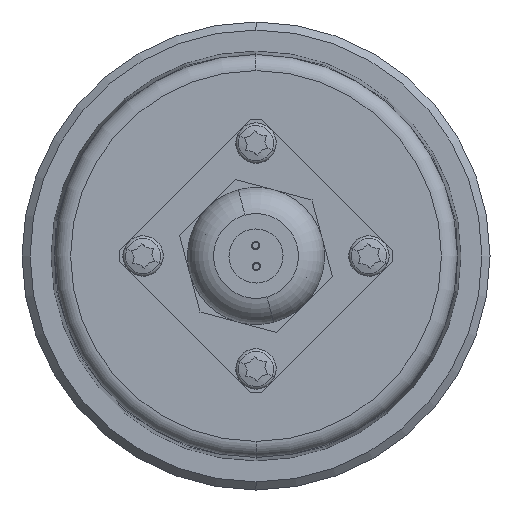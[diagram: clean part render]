
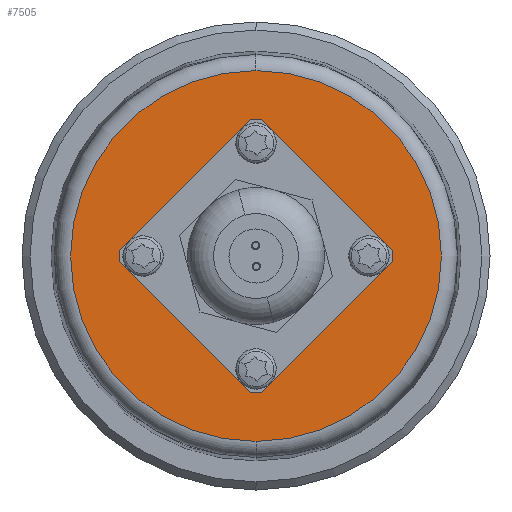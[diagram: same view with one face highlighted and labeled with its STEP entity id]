
A CAD part, left-side view. The second image highlights one B-rep face of the part: STEP entity #7505.
In plain terms, the highlighted planar face has unit normal (-1, 0, 0).
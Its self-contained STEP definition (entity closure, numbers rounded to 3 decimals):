
#55 = DIRECTION ( 'NONE',  ( 0., 0., -1. ) ) ;
#56 = DIRECTION ( 'NONE',  ( 1., 0., 0. ) ) ;
#57 = CARTESIAN_POINT ( 'NONE',  ( -21., 14.001, 0. ) ) ;
#58 = AXIS2_PLACEMENT_3D ( 'NONE', #57, #56, #55 ) ;
#150 = CIRCLE ( 'NONE', #58, 1.389 ) ;
#204 = CIRCLE ( 'NONE', #221, 1.389 ) ;
#218 = DIRECTION ( 'NONE',  ( 0., 0., -1. ) ) ;
#219 = DIRECTION ( 'NONE',  ( 1., 0., 0. ) ) ;
#220 = CARTESIAN_POINT ( 'NONE',  ( -21., -14.001, 0. ) ) ;
#221 = AXIS2_PLACEMENT_3D ( 'NONE', #220, #219, #218 ) ;
#4736 = DIRECTION ( 'NONE',  ( 0., 0., -1. ) ) ;
#4737 = DIRECTION ( 'NONE',  ( 1., 0., 0. ) ) ;
#4738 = CARTESIAN_POINT ( 'NONE',  ( -21., 0., 0. ) ) ;
#4739 = AXIS2_PLACEMENT_3D ( 'NONE', #4738, #4737, #4736 ) ;
#4740 = PLANE ( 'NONE',  #4739 ) ;
#4755 = FACE_BOUND ( 'NONE', #7439, .T. ) ;
#4756 = FACE_OUTER_BOUND ( 'NONE', #7474, .T. ) ;
#4757 = FACE_BOUND ( 'NONE', #7528, .T. ) ;
#4758 = FACE_BOUND ( 'NONE', #7442, .T. ) ;
#4759 = FACE_BOUND ( 'NONE', #7501, .T. ) ;
#4764 = FACE_BOUND ( 'NONE', #7506, .T. ) ;
#4797 = CARTESIAN_POINT ( 'NONE',  ( -21., 0., 14.001 ) ) ;
#4798 = AXIS2_PLACEMENT_3D ( 'NONE', #4797, #4929, #4928 ) ;
#4799 = CIRCLE ( 'NONE', #4798, 1.389 ) ;
#4923 = DIRECTION ( 'NONE',  ( 0., 0., -1. ) ) ;
#4924 = DIRECTION ( 'NONE',  ( -1., 0., 0. ) ) ;
#4925 = CARTESIAN_POINT ( 'NONE',  ( -21., 0., 0. ) ) ;
#4926 = AXIS2_PLACEMENT_3D ( 'NONE', #4925, #4924, #4923 ) ;
#4927 = CIRCLE ( 'NONE', #4926, 22.972 ) ;
#4928 = DIRECTION ( 'NONE',  ( 0., 0., -1. ) ) ;
#4929 = DIRECTION ( 'NONE',  ( 1., 0., 0. ) ) ;
#4930 = DIRECTION ( 'NONE',  ( 0., 0., -1. ) ) ;
#4931 = DIRECTION ( 'NONE',  ( 1., 0., 0. ) ) ;
#4932 = CARTESIAN_POINT ( 'NONE',  ( -21., 0., -14.001 ) ) ;
#4933 = AXIS2_PLACEMENT_3D ( 'NONE', #4932, #4931, #4930 ) ;
#4934 = CIRCLE ( 'NONE', #4933, 1.389 ) ;
#7438 = ORIENTED_EDGE ( 'NONE', *, *, #23241, .T. ) ;
#7439 = EDGE_LOOP ( 'NONE', ( #7440, #7459 ) ) ;
#7440 = ORIENTED_EDGE ( 'NONE', *, *, #7458, .F. ) ;
#7441 = ORIENTED_EDGE ( 'NONE', *, *, #23085, .T. ) ;
#7442 = EDGE_LOOP ( 'NONE', ( #7527, #7540 ) ) ;
#7458 = EDGE_CURVE ( 'NONE', #23461, #23317, #14103, .T. ) ;
#7459 = ORIENTED_EDGE ( 'NONE', *, *, #23460, .F. ) ;
#7461 = ORIENTED_EDGE ( 'NONE', *, *, #7500, .T. ) ;
#7472 = ORIENTED_EDGE ( 'NONE', *, *, #7473, .T. ) ;
#7473 = EDGE_CURVE ( 'NONE', #23105, #23108, #4799, .T. ) ;
#7474 = EDGE_LOOP ( 'NONE', ( #7475, #7438 ) ) ;
#7475 = ORIENTED_EDGE ( 'NONE', *, *, #7476, .T. ) ;
#7476 = EDGE_CURVE ( 'NONE', #23144, #23180, #4927, .T. ) ;
#7500 = EDGE_CURVE ( 'NONE', #23046, #23145, #4934, .T. ) ;
#7501 = EDGE_LOOP ( 'NONE', ( #7441, #7525 ) ) ;
#7505 = ADVANCED_FACE ( 'NONE', ( #4764, #4759, #4758, #4757, #4756, #4755 ), #4740, .F. ) ;
#7506 = EDGE_LOOP ( 'NONE', ( #7507, #7461 ) ) ;
#7507 = ORIENTED_EDGE ( 'NONE', *, *, #23197, .T. ) ;
#7525 = ORIENTED_EDGE ( 'NONE', *, *, #7526, .T. ) ;
#7526 = EDGE_CURVE ( 'NONE', #23022, #23023, #204, .T. ) ;
#7527 = ORIENTED_EDGE ( 'NONE', *, *, #23050, .T. ) ;
#7528 = EDGE_LOOP ( 'NONE', ( #7542, #7472 ) ) ;
#7540 = ORIENTED_EDGE ( 'NONE', *, *, #7541, .T. ) ;
#7541 = EDGE_CURVE ( 'NONE', #23038, #23014, #150, .T. ) ;
#7542 = ORIENTED_EDGE ( 'NONE', *, *, #23107, .T. ) ;
#9419 = CARTESIAN_POINT ( 'NONE',  ( -21., 14.001, 1.389 ) ) ;
#9431 = CARTESIAN_POINT ( 'NONE',  ( -21., -14.001, 1.389 ) ) ;
#9445 = CARTESIAN_POINT ( 'NONE',  ( -21., -14.001, -1.389 ) ) ;
#9526 = CARTESIAN_POINT ( 'NONE',  ( -21., 14.001, 0. ) ) ;
#9527 = CIRCLE ( 'NONE', #9547, 1.389 ) ;
#9545 = DIRECTION ( 'NONE',  ( 0., 0., -1. ) ) ;
#9546 = DIRECTION ( 'NONE',  ( 1., 0., 0. ) ) ;
#9547 = AXIS2_PLACEMENT_3D ( 'NONE', #9526, #9546, #9545 ) ;
#9561 = CARTESIAN_POINT ( 'NONE',  ( -21., 14.001, -1.389 ) ) ;
#9575 = CARTESIAN_POINT ( 'NONE',  ( -21., 0., -15.389 ) ) ;
#9665 = DIRECTION ( 'NONE',  ( 0., 0., -1. ) ) ;
#9691 = DIRECTION ( 'NONE',  ( 1., 0., 0. ) ) ;
#9692 = CARTESIAN_POINT ( 'NONE',  ( -21., -14.001, 0. ) ) ;
#9693 = AXIS2_PLACEMENT_3D ( 'NONE', #9692, #9691, #9665 ) ;
#9694 = CIRCLE ( 'NONE', #9693, 1.389 ) ;
#9745 = DIRECTION ( 'NONE',  ( 0., 0., -1. ) ) ;
#9746 = DIRECTION ( 'NONE',  ( 1., 0., 0. ) ) ;
#9747 = CARTESIAN_POINT ( 'NONE',  ( -21., 0., 14.001 ) ) ;
#9748 = AXIS2_PLACEMENT_3D ( 'NONE', #9747, #9746, #9745 ) ;
#9749 = CIRCLE ( 'NONE', #9748, 1.389 ) ;
#9779 = CARTESIAN_POINT ( 'NONE',  ( -21., 0., 15.389 ) ) ;
#9780 = CARTESIAN_POINT ( 'NONE',  ( -21., 0., 12.612 ) ) ;
#9841 = CARTESIAN_POINT ( 'NONE',  ( -21., 0., -12.612 ) ) ;
#9857 = CARTESIAN_POINT ( 'NONE',  ( -21., 0., -22.972 ) ) ;
#10022 = DIRECTION ( 'NONE',  ( 0., 0., -1. ) ) ;
#10023 = DIRECTION ( 'NONE',  ( 1., 0., 0. ) ) ;
#10024 = CARTESIAN_POINT ( 'NONE',  ( -21., 0., -14.001 ) ) ;
#10025 = AXIS2_PLACEMENT_3D ( 'NONE', #10024, #10023, #10022 ) ;
#10026 = CIRCLE ( 'NONE', #10025, 1.389 ) ;
#10055 = CARTESIAN_POINT ( 'NONE',  ( -21., 0., 22.972 ) ) ;
#10257 = DIRECTION ( 'NONE',  ( -1., 0., 0. ) ) ;
#10258 = CARTESIAN_POINT ( 'NONE',  ( -21., 0., 0. ) ) ;
#10360 = AXIS2_PLACEMENT_3D ( 'NONE', #10258, #10257, #10374 ) ;
#10361 = CIRCLE ( 'NONE', #10360, 22.972 ) ;
#10374 = DIRECTION ( 'NONE',  ( 0., 0., -1. ) ) ;
#10420 = CARTESIAN_POINT ( 'NONE',  ( -21., 0., -11.5 ) ) ;
#10862 = CARTESIAN_POINT ( 'NONE',  ( -21., 0., 0. ) ) ;
#10863 = AXIS2_PLACEMENT_3D ( 'NONE', #10862, #10884, #10883 ) ;
#10864 = CIRCLE ( 'NONE', #10863, 11.5 ) ;
#10882 = CARTESIAN_POINT ( 'NONE',  ( -21., 0., 11.5 ) ) ;
#10883 = DIRECTION ( 'NONE',  ( 0., 0., 1. ) ) ;
#10884 = DIRECTION ( 'NONE',  ( -1., 0., 0. ) ) ;
#14103 = CIRCLE ( 'NONE', #14131, 11.5 ) ;
#14128 = DIRECTION ( 'NONE',  ( 0., 0., 1. ) ) ;
#14129 = DIRECTION ( 'NONE',  ( -1., 0., 0. ) ) ;
#14130 = CARTESIAN_POINT ( 'NONE',  ( -21., 0., 0. ) ) ;
#14131 = AXIS2_PLACEMENT_3D ( 'NONE', #14130, #14129, #14128 ) ;
#23014 = VERTEX_POINT ( 'NONE', #9419 ) ;
#23022 = VERTEX_POINT ( 'NONE', #9445 ) ;
#23023 = VERTEX_POINT ( 'NONE', #9431 ) ;
#23038 = VERTEX_POINT ( 'NONE', #9561 ) ;
#23046 = VERTEX_POINT ( 'NONE', #9575 ) ;
#23050 = EDGE_CURVE ( 'NONE', #23014, #23038, #9527, .T. ) ;
#23085 = EDGE_CURVE ( 'NONE', #23023, #23022, #9694, .T. ) ;
#23105 = VERTEX_POINT ( 'NONE', #9780 ) ;
#23107 = EDGE_CURVE ( 'NONE', #23108, #23105, #9749, .T. ) ;
#23108 = VERTEX_POINT ( 'NONE', #9779 ) ;
#23144 = VERTEX_POINT ( 'NONE', #9857 ) ;
#23145 = VERTEX_POINT ( 'NONE', #9841 ) ;
#23180 = VERTEX_POINT ( 'NONE', #10055 ) ;
#23197 = EDGE_CURVE ( 'NONE', #23145, #23046, #10026, .T. ) ;
#23241 = EDGE_CURVE ( 'NONE', #23180, #23144, #10361, .T. ) ;
#23317 = VERTEX_POINT ( 'NONE', #10420 ) ;
#23460 = EDGE_CURVE ( 'NONE', #23317, #23461, #10864, .T. ) ;
#23461 = VERTEX_POINT ( 'NONE', #10882 ) ;
